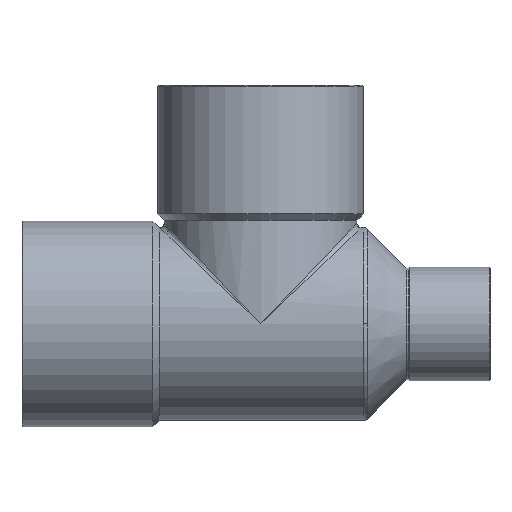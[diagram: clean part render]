
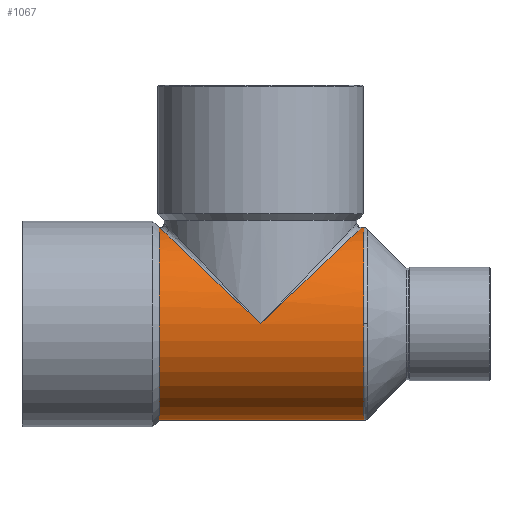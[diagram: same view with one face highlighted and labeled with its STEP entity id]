
A CAD part, top view. The second image highlights one B-rep face of the part: STEP entity #1067.
In plain terms, the highlighted cylindrical face has radius 21 mm (diameter 42 mm), a partial arc.
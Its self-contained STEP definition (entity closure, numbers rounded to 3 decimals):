
#337=CARTESIAN_POINT('',(-22.087,21.,0.0));
#338=VERTEX_POINT('',#337);
#354=CARTESIAN_POINT('',(-22.087,-21.,0.));
#355=VERTEX_POINT('',#354);
#362=CARTESIAN_POINT('',(-22.087,0.0,0.0));
#363=DIRECTION('',(1.0,0.0,0.0));
#364=DIRECTION('',(0.0,1.0,0.0));
#365=AXIS2_PLACEMENT_3D('',#362,#363,#364);
#366=CIRCLE('',#365,21.);
#367=EDGE_CURVE('',#338,#355,#366,.T.);
#404=CARTESIAN_POINT('',(0.0,0.0,21.0));
#405=VERTEX_POINT('',#404);
#1003=CARTESIAN_POINT('',(0.415,0.0,0.0));
#1004=DIRECTION('',(1.0,0.0,0.0));
#1005=DIRECTION('',(0.0,1.0,0.0));
#1006=AXIS2_PLACEMENT_3D('',#1003,#1004,#1005);
#1007=CYLINDRICAL_SURFACE('',#1006,21.0);
#1008=CARTESIAN_POINT('',(-22.,21.0,0.));
#1009=VERTEX_POINT('',#1008);
#1010=CARTESIAN_POINT('',(-22.087,21.,0.0));
#1011=DIRECTION('',(1.0,0.0,0.0));
#1012=VECTOR('',#1011,0.087);
#1013=LINE('',#1010,#1012);
#1014=EDGE_CURVE('',#338,#1009,#1013,.T.);
#1015=ORIENTED_EDGE('',*,*,#1014,.F.);
#1016=ORIENTED_EDGE('',*,*,#367,.T.);
#1017=CARTESIAN_POINT('',(22.502,-21.0,0.));
#1018=VERTEX_POINT('',#1017);
#1019=CARTESIAN_POINT('',(22.502,-21.0,0.));
#1020=DIRECTION('',(-1.0,0.0,0.0));
#1021=VECTOR('',#1020,44.589);
#1022=LINE('',#1019,#1021);
#1023=EDGE_CURVE('',#1018,#355,#1022,.T.);
#1024=ORIENTED_EDGE('',*,*,#1023,.F.);
#1025=CARTESIAN_POINT('',(22.502,0.,21.0));
#1026=VERTEX_POINT('',#1025);
#1027=CARTESIAN_POINT('',(22.502,0.0,0.0));
#1028=DIRECTION('',(1.0,0.0,0.0));
#1029=DIRECTION('',(0.0,-1.0,0.0));
#1030=AXIS2_PLACEMENT_3D('',#1027,#1028,#1029);
#1031=CIRCLE('',#1030,21.0);
#1032=EDGE_CURVE('',#1026,#1018,#1031,.T.);
#1033=ORIENTED_EDGE('',*,*,#1032,.F.);
#1034=CARTESIAN_POINT('',(22.502,21.0,0.0));
#1035=VERTEX_POINT('',#1034);
#1036=CARTESIAN_POINT('',(22.502,0.0,0.0));
#1037=DIRECTION('',(1.0,0.0,0.0));
#1038=DIRECTION('',(0.0,-1.0,0.0));
#1039=AXIS2_PLACEMENT_3D('',#1036,#1037,#1038);
#1040=CIRCLE('',#1039,21.0);
#1041=EDGE_CURVE('',#1035,#1026,#1040,.T.);
#1042=ORIENTED_EDGE('',*,*,#1041,.F.);
#1043=CARTESIAN_POINT('',(22.,21.0,0.));
#1044=VERTEX_POINT('',#1043);
#1045=CARTESIAN_POINT('',(22.,21.0,0.));
#1046=DIRECTION('',(1.0,0.0,0.0));
#1047=VECTOR('',#1046,0.502);
#1048=LINE('',#1045,#1047);
#1049=EDGE_CURVE('',#1044,#1035,#1048,.T.);
#1050=ORIENTED_EDGE('',*,*,#1049,.F.);
#1051=CARTESIAN_POINT('',(0.0,0.0,0.0));
#1052=DIRECTION('',(-0.69,0.723,0.0));
#1053=DIRECTION('',(0.723,0.69,0.0));
#1054=AXIS2_PLACEMENT_3D('',#1051,#1052,#1053);
#1055=ELLIPSE('',#1054,30.414,21.);
#1056=EDGE_CURVE('',#405,#1044,#1055,.T.);
#1057=ORIENTED_EDGE('',*,*,#1056,.F.);
#1058=CARTESIAN_POINT('',(0.0,0.0,0.0));
#1059=DIRECTION('',(0.69,0.723,0.0));
#1060=DIRECTION('',(-0.723,0.69,0.0));
#1061=AXIS2_PLACEMENT_3D('',#1058,#1059,#1060);
#1062=ELLIPSE('',#1061,30.414,21.);
#1063=EDGE_CURVE('',#1009,#405,#1062,.T.);
#1064=ORIENTED_EDGE('',*,*,#1063,.F.);
#1065=EDGE_LOOP('',(#1015,#1016,#1024,#1033,#1042,#1050,#1057,#1064));
#1066=FACE_OUTER_BOUND('',#1065,.T.);
#1067=ADVANCED_FACE('',(#1066),#1007,.T.);
